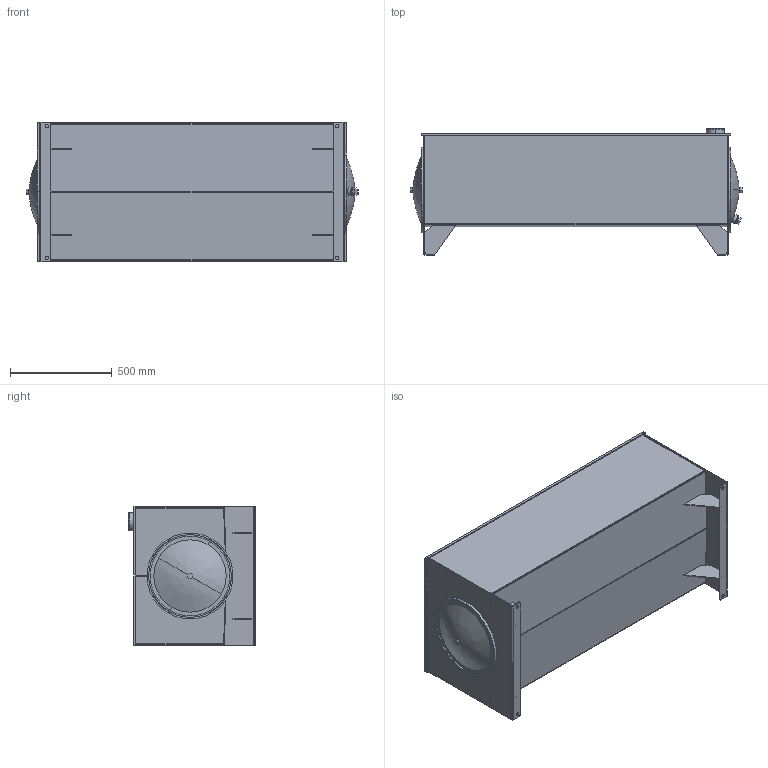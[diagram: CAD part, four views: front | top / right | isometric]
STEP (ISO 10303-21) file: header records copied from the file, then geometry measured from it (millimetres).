
FILE_DESCRIPTION (( 'STEP AP214' ), '1' );
FILE_NAME ('T1-100.STEP', '2019-10-18T10:50:05', ( '' ), ( '' ), 'SwSTEP 2.0', 'SolidWorks 2013', '' );
FILE_SCHEMA (( 'AUTOMOTIVE_DESIGN' ));
Length unit declared in the file: inch
Products named in the file (17): 16.00 END COVER WITH DRAIN; 0.625 - 11 BAFFLE NUT; 0.625 - 11 HEX BOLT; CRUSH WASHER; 16.00 GASKET; FILLER RISER; T1-100-GST; T1-100-BFL; T1-100-BDY; T1-100-EB; T1-100-EA; T1-100-LD; T1-100; TL-EC-16; 16.00 END COVER; TL-ECD-16; DRAIN
Assembly tree (23 placements, depth 3):
  T1-100
    T1-100-LD
    T1-100-EA
    T1-100-EB
    T1-100-BDY
    T1-100-BFL
    T1-100-GST  x4
    FILLER RISER
    TL-ECD-16
      16.00 GASKET
      CRUSH WASHER
      0.625 - 11 HEX BOLT
      0.625 - 11 BAFFLE NUT
      16.00 END COVER WITH DRAIN
      DRAIN
    TL-EC-16
      16.00 END COVER
      16.00 GASKET
      CRUSH WASHER
      0.625 - 11 HEX BOLT
      0.625 - 11 BAFFLE NUT
Bounding box: 1633.2 x 622.3 x 685.8 mm (x, y, z)
Volume: 25000857.9 mm3; surface area: 10312761.5 mm2
Topology: 22 solids, 22 shells, 294 faces, 676 edges, 434 vertices
Faces by surface type: plane 165, cylinder 109, cone 10, bspline 8, torus 2
Entity records: 8553 total; most frequent: CARTESIAN_POINT 1469, DIRECTION 1242, ORIENTED_EDGE 1076, EDGE_CURVE 538, AXIS2_PLACEMENT_3D 465, VERTEX_POINT 342, LINE 312, VECTOR 312
